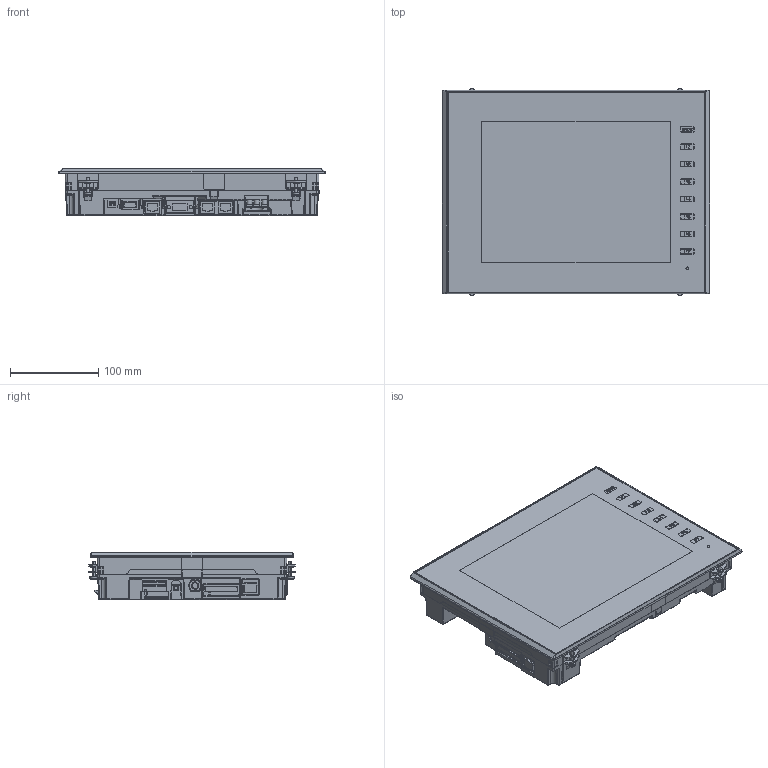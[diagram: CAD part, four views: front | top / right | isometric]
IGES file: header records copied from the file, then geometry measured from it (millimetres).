
Start section:  PTC IGES file: v910isd-3d-data4.igs
Global section: file name: v910isd-3d-data4.igs; native system: Pro/ENGINEER by Parametric Technology Corporation; preprocessor: 2007390; author: takahashi; organization: Unknown; date: 20140508.130023; units: millimetre
Bounding box: 303.8 x 234.4 x 54 mm (x, y, z)
Volume: 2669850.5 mm3; surface area: 210178.9 mm2
Topology: 1 solids, 1 shells, 3559 faces, 9876 edges, 6420 vertices
Faces by surface type: bspline 2898, revolution 644, extrusion 17
